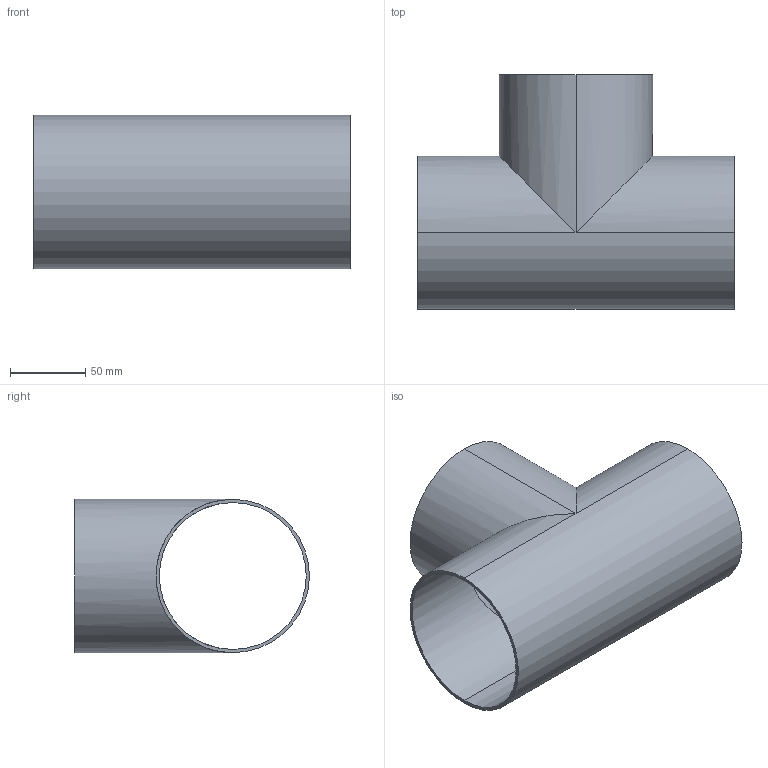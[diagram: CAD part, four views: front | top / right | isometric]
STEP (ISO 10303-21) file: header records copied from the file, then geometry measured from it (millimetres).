
FILE_DESCRIPTION (( 'STEP AP214' ), '1' );
FILE_NAME ('TE7WWW6L4.0-...STEP', '2016-05-23T06:29:24', ( 'eran' ), ( '' ), 'SwSTEP 2.0', 'SolidWorks 2016', '' );
FILE_SCHEMA (( 'AUTOMOTIVE_DESIGN' ));
Length unit declared in the file: millimetre
Products named in the file (1): TE7WWW6L4.0-..
Bounding box: 209.6 x 155.6 x 101.6 mm (x, y, z)
Volume: 165568.4 mm3; surface area: 158903.5 mm2
Topology: 1 solids, 1 shells, 13 faces, 28 edges, 16 vertices
Faces by surface type: cylinder 10, plane 3
Entity records: 392 total; most frequent: CARTESIAN_POINT 70, DIRECTION 64, ORIENTED_EDGE 56, EDGE_CURVE 28, AXIS2_PLACEMENT_3D 26, EDGE_LOOP 16, VERTEX_POINT 16, ADVANCED_FACE 13
